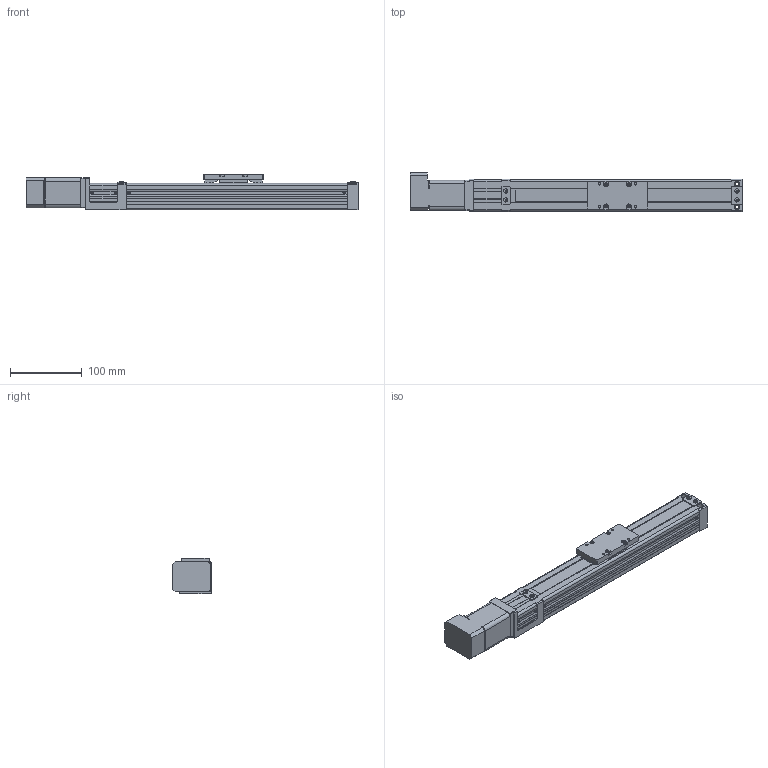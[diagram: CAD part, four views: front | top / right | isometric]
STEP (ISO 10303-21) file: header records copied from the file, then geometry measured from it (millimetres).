
FILE_DESCRIPTION((''),'2;1');
FILE_NAME('D:\製品 (図面)\カタログ用3D\SU部品\SU45×50\ダウンロード用\SU45×50-CM18\SU45×50-200-CM18.stp','2011-06-17T14:53:56',('Tsuchiya'),(''),'Autodesk Inventor 10','Autodesk Inventor 10','');
FILE_SCHEMA(('AUTOMOTIVE_DESIGN { 1 0 10303 214 1 1 1 1 }'));
Length unit declared in the file: millimetre
Products named in the file (4): SU45×50-200-CM18; SB45×50-200-MB42-1(1); SU45×50-T(1); マッスルモーター
Assembly tree (3 placements, depth 2):
  SU45×50-200-CM18
    SB45×50-200-MB42-1(1)
    SU45×50-T(1)
    マッスルモーター
Bounding box: 462.5 x 54.5 x 50 mm (x, y, z)
Volume: 413920.4 mm3; surface area: 177805.4 mm2
Topology: 3 solids, 3 shells, 731 faces, 1958 edges, 1287 vertices
Faces by surface type: plane 538, cylinder 99, bspline 58, torus 22, cone 14
Full cylindrical faces by diameter (mm): 2.459 x4, 3.242 x4, 3.4 x4, 4.5 x4, 5 x5, 6 x5, 7 x6, 8 x7, 10 x1, 20 x1, 22 x2, 30 x1
Entity records: 22572 total; most frequent: CARTESIAN_POINT 4966, ORIENTED_EDGE 3600, DIRECTION 3400, EDGE_CURVE 1800, VECTOR 1392, LINE 1392, VERTEX_POINT 1242, AXIS2_PLACEMENT_3D 1004
